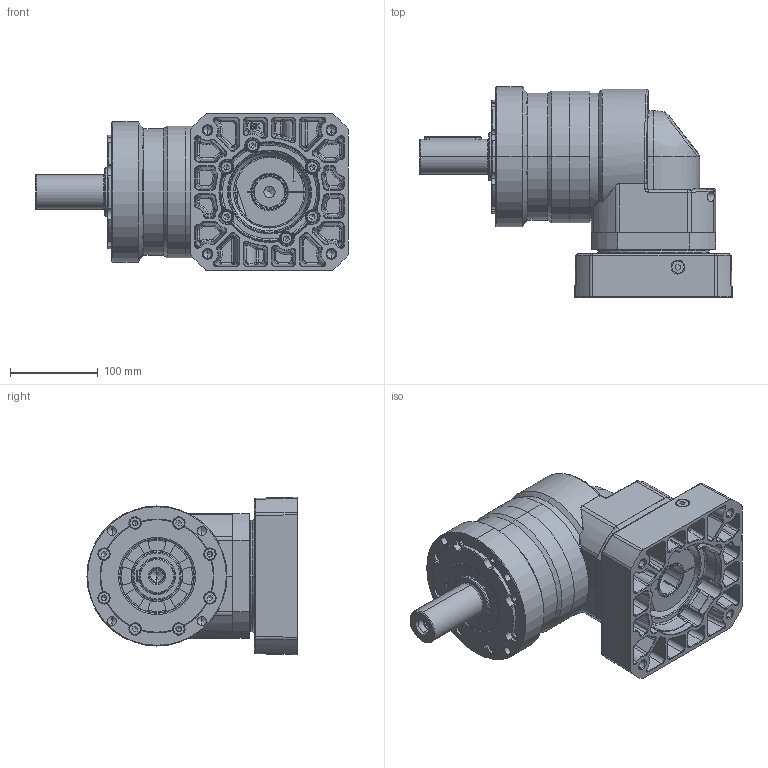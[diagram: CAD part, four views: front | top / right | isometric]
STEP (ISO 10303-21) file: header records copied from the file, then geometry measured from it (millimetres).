
FILE_DESCRIPTION (( 'STEP AP214' ), '1' );
FILE_NAME ('FER160-L1-P2-P2 35-114.3-200-M12-82.STEP', '2025-02-19T02:49:07', ( '微软用户' ), ( '微软中国' ), 'SwSTEP 2.0', 'SolidWorks 2021', '' );
FILE_SCHEMA (( 'AUTOMOTIVE_DESIGN' ));
Length unit declared in the file: millimetre
Products named in the file (16): M8-16樓粟菜; FER160-L1-P2-P2 35-114.3-200-M12-82; FBK嘎殤蚐猾-KG55-85-10; 踡隅蹟隊M16x12; 怀堤俴陎殤PAB142-S2; 输入轴PAR142D-35; M8-16樓粟菜_2; 20-FADR140F眻褒眊极_stp.stp; 怀堤傷褲极EVT140D(樓菜え); 输入轴锁紧环41X79X18(加螺丝); FE160怀堤傷褲极; A倰す瑩12X65; FE160内齿圈; M6-14樓粟菜; 镂空输入法兰PAB142D-114.3-53-M12; 输入端壳体PAR142D
Assembly tree (36 placements, depth 2):
  FER160-L1-P2-P2 35-114.3-200-M12-82
    怀堤俴陎殤PAB142-S2
    FBK嘎殤蚐猾-KG55-85-10
    A倰す瑩12X65
    怀堤傷褲极EVT140D(樓菜え)
    输入端壳体PAR142D
    M6-14樓粟菜  x10
    镂空输入法兰PAB142D-114.3-53-M12
    输入轴锁紧环41X79X18(加螺丝)
    输入轴PAR142D-35
    踡隅蹟隊M16x12
    M8-16樓粟菜_2  x6
    FE160内齿圈
    M8-16樓粟菜  x8
    FE160怀堤傷褲极
    20-FADR140F眻褒眊极_stp.stp
Bounding box: 357 x 240 x 180 mm (x, y, z)
Volume: 4541573.5 mm3; surface area: 710240.2 mm2
Topology: 11 solids, 63 shells, 2456 faces, 5915 edges, 3633 vertices
Faces by surface type: cylinder 709, plane 673, bspline 578, cone 350, torus 136, sphere 10
Entity records: 100413 total; most frequent: CARTESIAN_POINT 44051, ORIENTED_EDGE 8951, DIRECTION 7420, EDGE_CURVE 4493, AXIS2_PLACEMENT_3D 3026, VERTEX_POINT 2752, EDGE_LOOP 2130, FACE_OUTER_BOUND 1904
